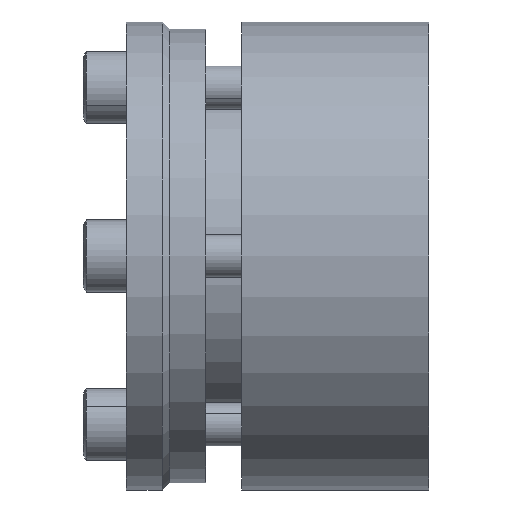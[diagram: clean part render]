
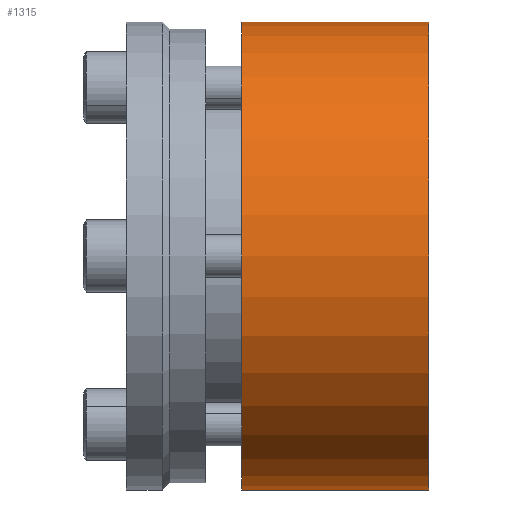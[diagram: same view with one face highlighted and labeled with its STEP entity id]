
A CAD part, front view. The second image highlights one B-rep face of the part: STEP entity #1315.
In plain terms, the highlighted cylindrical face has radius 32.5 mm (diameter 65 mm), a partial arc.
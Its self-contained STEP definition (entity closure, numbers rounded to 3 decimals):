
#1046 = VERTEX_POINT ( 'NONE', #3248 ) ;
#1047 = VERTEX_POINT ( 'NONE', #3247 ) ;
#1049 = EDGE_CURVE ( 'NONE', #1047, #1106, #3246, .T. ) ;
#1106 = VERTEX_POINT ( 'NONE', #3323 ) ;
#1109 = VERTEX_POINT ( 'NONE', #3379 ) ;
#1111 = EDGE_CURVE ( 'NONE', #1046, #1109, #3378, .T. ) ;
#1198 = EDGE_CURVE ( 'NONE', #1047, #1046, #3482, .T. ) ;
#1246 = ORIENTED_EDGE ( 'NONE', *, *, #1314, .F. ) ;
#1314 = EDGE_CURVE ( 'NONE', #1106, #1109, #3648, .T. ) ;
#1315 = ADVANCED_FACE ( 'NONE', ( #3644 ), #3643, .T. ) ;
#1316 = EDGE_LOOP ( 'NONE', ( #1317, #1319, #1320, #1246 ) ) ;
#1317 = ORIENTED_EDGE ( 'NONE', *, *, #1049, .F. ) ;
#1319 = ORIENTED_EDGE ( 'NONE', *, *, #1198, .T. ) ;
#1320 = ORIENTED_EDGE ( 'NONE', *, *, #1111, .T. ) ;
#3243 = DIRECTION ( 'NONE',  ( -1., 0., 0. ) ) ;
#3244 = VECTOR ( 'NONE', #3243, 1000. ) ;
#3245 = CARTESIAN_POINT ( 'NONE',  ( 0., 0., -32.5 ) ) ;
#3246 = LINE ( 'NONE', #3245, #3244 ) ;
#3247 = CARTESIAN_POINT ( 'NONE',  ( 42., 0., -32.5 ) ) ;
#3248 = CARTESIAN_POINT ( 'NONE',  ( 42., 0., 32.5 ) ) ;
#3323 = CARTESIAN_POINT ( 'NONE',  ( 16., 0., -32.5 ) ) ;
#3375 = DIRECTION ( 'NONE',  ( -1., 0., 0. ) ) ;
#3376 = VECTOR ( 'NONE', #3375, 1000. ) ;
#3377 = CARTESIAN_POINT ( 'NONE',  ( 0., 0., 32.5 ) ) ;
#3378 = LINE ( 'NONE', #3377, #3376 ) ;
#3379 = CARTESIAN_POINT ( 'NONE',  ( 16., 0., 32.5 ) ) ;
#3478 = DIRECTION ( 'NONE',  ( 0., 0., 1. ) ) ;
#3479 = DIRECTION ( 'NONE',  ( -1., 0., 0. ) ) ;
#3480 = CARTESIAN_POINT ( 'NONE',  ( 42., 0., 0. ) ) ;
#3481 = AXIS2_PLACEMENT_3D ( 'NONE', #3480, #3479, #3478 ) ;
#3482 = CIRCLE ( 'NONE', #3481, 32.5 ) ;
#3641 = CARTESIAN_POINT ( 'NONE',  ( 0., 0., 0. ) ) ;
#3642 = AXIS2_PLACEMENT_3D ( 'NONE', #3641, #3706, #3705 ) ;
#3643 = CYLINDRICAL_SURFACE ( 'NONE', #3642, 32.5 ) ;
#3644 = FACE_OUTER_BOUND ( 'NONE', #1316, .T. ) ;
#3645 = DIRECTION ( 'NONE',  ( 0., 0., 1. ) ) ;
#3646 = DIRECTION ( 'NONE',  ( -1., 0., 0. ) ) ;
#3647 = AXIS2_PLACEMENT_3D ( 'NONE', #3652, #3646, #3645 ) ;
#3648 = CIRCLE ( 'NONE', #3647, 32.5 ) ;
#3652 = CARTESIAN_POINT ( 'NONE',  ( 16., 0., 0. ) ) ;
#3705 = DIRECTION ( 'NONE',  ( 0., 0., 1. ) ) ;
#3706 = DIRECTION ( 'NONE',  ( -1., 0., 0. ) ) ;
